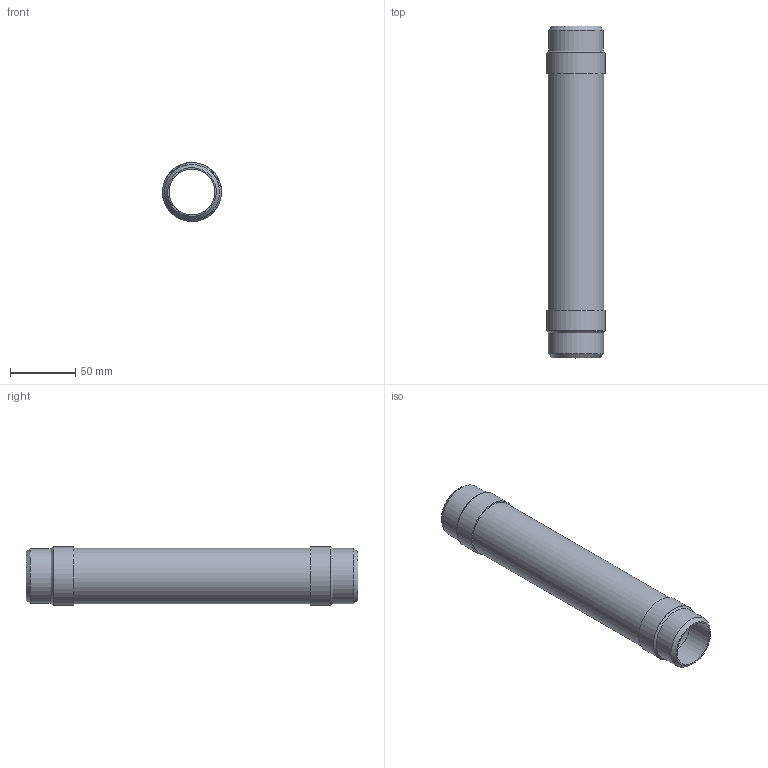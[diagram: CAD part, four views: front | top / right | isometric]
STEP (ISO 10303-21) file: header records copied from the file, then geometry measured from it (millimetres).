
FILE_DESCRIPTION(/* description */ (''),/* implementation_level */ '2;1');
FILE_NAME(/* name */ 'C:\001_Work\Designs\CSAWN\CSAWN-1.25x10.stp',/* time_stamp */ '2016-06-04T16:47:39-04:00',/* author */ ('rramoutar'),/* organization */ ('Mason Industries Inc.'),/* preprocessor_version */ 'ST-DEVELOPER v15.6',/* originating_system */ 'Autodesk Inventor 2015',/* authorisation */ '');
FILE_SCHEMA (('CONFIG_CONTROL_DESIGN'));
Length unit declared in the file: inch
Products named in the file (1): CSAWN-1.25x10
Bounding box: 45.15 x 254 x 45.15 mm (x, y, z)
Volume: 30993.6 mm3; surface area: 78156 mm2
Topology: 5 solids, 5 shells, 24 faces, 40 edges, 26 vertices
Faces by surface type: cylinder 10, plane 10, cone 4
Full cylindrical faces by diameter (mm): 35.052 x2, 42.164 x3, 42.774 x3, 45.155 x2
Entity records: 564 total; most frequent: DIRECTION 98, CARTESIAN_POINT 73, AXIS2_PLACEMENT_3D 49, EDGE_LOOP 48, ORIENTED_EDGE 48, STYLED_ITEM 29, FACE_BOUND 24, FACE_OUTER_BOUND 24
